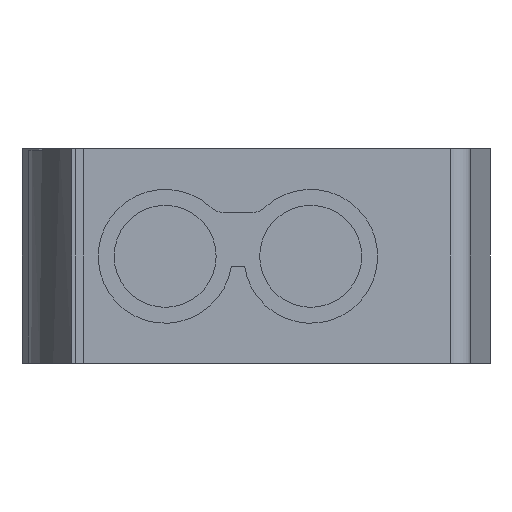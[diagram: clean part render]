
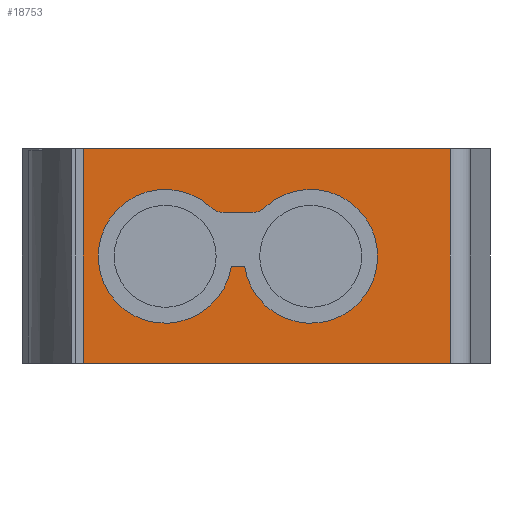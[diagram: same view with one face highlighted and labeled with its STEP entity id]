
A CAD part, left-side view. The second image highlights one B-rep face of the part: STEP entity #18753.
In plain terms, the highlighted planar face has unit normal (-1, 0, 0).
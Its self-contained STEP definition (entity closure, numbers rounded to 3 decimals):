
#10591=CARTESIAN_POINT('',(-3.142,11.338,0.0));
#10592=VERTEX_POINT('',#10591);
#10599=CARTESIAN_POINT('',(-3.142,11.338,15.7));
#10600=VERTEX_POINT('',#10599);
#10601=CARTESIAN_POINT('',(-3.142,11.338,15.7));
#10602=DIRECTION('',(0.0,0.0,-1.0));
#10603=VECTOR('',#10602,15.7);
#10604=LINE('',#10601,#10603);
#10605=EDGE_CURVE('',#10600,#10592,#10604,.T.);
#10655=CARTESIAN_POINT('',(-3.142,-15.562,15.7));
#10656=VERTEX_POINT('',#10655);
#10657=CARTESIAN_POINT('',(-3.142,-15.562,15.7));
#10658=DIRECTION('',(0.0,1.0,0.0));
#10659=VECTOR('',#10658,26.9);
#10660=LINE('',#10657,#10659);
#10661=EDGE_CURVE('',#10656,#10600,#10660,.T.);
#14030=CARTESIAN_POINT('',(-3.142,1.093,11.046));
#14031=VERTEX_POINT('',#14030);
#14032=CARTESIAN_POINT('',(-3.142,-1.093,11.046));
#14033=VERTEX_POINT('',#14032);
#14034=CARTESIAN_POINT('',(-3.142,1.093,11.046));
#14035=DIRECTION('',(0.0,-1.0,0.0));
#14036=VECTOR('',#14035,2.185);
#14037=LINE('',#14034,#14036);
#14038=EDGE_CURVE('',#14031,#14033,#14037,.T.);
#14185=CARTESIAN_POINT('',(-3.142,-1.965,11.392));
#14186=VERTEX_POINT('',#14185);
#14187=CARTESIAN_POINT('',(-3.142,-1.093,12.316));
#14188=DIRECTION('',(-1.0,0.0,0.0));
#14189=DIRECTION('',(0.0,0.0,1.0));
#14190=AXIS2_PLACEMENT_3D('',#14187,#14188,#14189);
#14191=CIRCLE('',#14190,1.27);
#14192=EDGE_CURVE('',#14033,#14186,#14191,.T.);
#14350=CARTESIAN_POINT('',(-3.142,1.965,11.392));
#14351=VERTEX_POINT('',#14350);
#14352=CARTESIAN_POINT('',(-3.142,1.093,12.316));
#14353=DIRECTION('',(-1.0,0.,0.));
#14354=DIRECTION('',(0.,-0.687,0.727));
#14355=AXIS2_PLACEMENT_3D('',#14352,#14353,#14354);
#14356=CIRCLE('',#14355,1.27);
#14357=EDGE_CURVE('',#14351,#14031,#14356,.T.);
#14560=CARTESIAN_POINT('',(-3.142,-0.484,7.084));
#14561=VERTEX_POINT('',#14560);
#14562=CARTESIAN_POINT('',(-3.142,0.484,7.084));
#14563=VERTEX_POINT('',#14562);
#14564=CARTESIAN_POINT('',(-3.142,-0.484,7.084));
#14565=DIRECTION('',(0.0,1.0,0.0));
#14566=VECTOR('',#14565,0.969);
#14567=LINE('',#14564,#14566);
#14568=EDGE_CURVE('',#14561,#14563,#14567,.T.);
#15249=CARTESIAN_POINT('',(-3.142,5.334,7.826));
#15250=DIRECTION('',(1.0,0.,0.));
#15251=DIRECTION('',(0.,-0.687,0.727));
#15252=AXIS2_PLACEMENT_3D('',#15249,#15250,#15251);
#15253=CIRCLE('',#15252,4.906);
#15254=EDGE_CURVE('',#14563,#14351,#15253,.T.);
#15904=CARTESIAN_POINT('',(-3.142,-5.334,7.826));
#15905=DIRECTION('',(1.,0.,0.));
#15906=DIRECTION('',(0.,0.988,-0.151));
#15907=AXIS2_PLACEMENT_3D('',#15904,#15905,#15906);
#15908=CIRCLE('',#15907,4.906);
#15909=EDGE_CURVE('',#14186,#14561,#15908,.T.);
#18722=CARTESIAN_POINT('',(-3.142,-15.562,0.0));
#18723=DIRECTION('',(-1.0,0.0,0.0));
#18724=DIRECTION('',(0.0,0.0,1.0));
#18725=AXIS2_PLACEMENT_3D('',#18722,#18723,#18724);
#18726=PLANE('',#18725);
#18727=ORIENTED_EDGE('',*,*,#10605,.T.);
#18728=CARTESIAN_POINT('',(-3.142,-15.562,0.0));
#18729=VERTEX_POINT('',#18728);
#18730=CARTESIAN_POINT('',(-3.142,11.338,0.0));
#18731=DIRECTION('',(0.0,-1.0,0.0));
#18732=VECTOR('',#18731,26.9);
#18733=LINE('',#18730,#18732);
#18734=EDGE_CURVE('',#10592,#18729,#18733,.T.);
#18735=ORIENTED_EDGE('',*,*,#18734,.T.);
#18736=CARTESIAN_POINT('',(-3.142,-15.562,0.0));
#18737=DIRECTION('',(0.0,0.0,1.0));
#18738=VECTOR('',#18737,15.7);
#18739=LINE('',#18736,#18738);
#18740=EDGE_CURVE('',#18729,#10656,#18739,.T.);
#18741=ORIENTED_EDGE('',*,*,#18740,.T.);
#18742=ORIENTED_EDGE('',*,*,#10661,.T.);
#18743=EDGE_LOOP('',(#18727,#18735,#18741,#18742));
#18744=FACE_OUTER_BOUND('',#18743,.T.);
#18745=ORIENTED_EDGE('',*,*,#14192,.T.);
#18746=ORIENTED_EDGE('',*,*,#15909,.T.);
#18747=ORIENTED_EDGE('',*,*,#14568,.T.);
#18748=ORIENTED_EDGE('',*,*,#15254,.T.);
#18749=ORIENTED_EDGE('',*,*,#14357,.T.);
#18750=ORIENTED_EDGE('',*,*,#14038,.T.);
#18751=EDGE_LOOP('',(#18745,#18746,#18747,#18748,#18749,#18750));
#18752=FACE_BOUND('',#18751,.T.);
#18753=ADVANCED_FACE('',(#18744,#18752),#18726,.T.);
